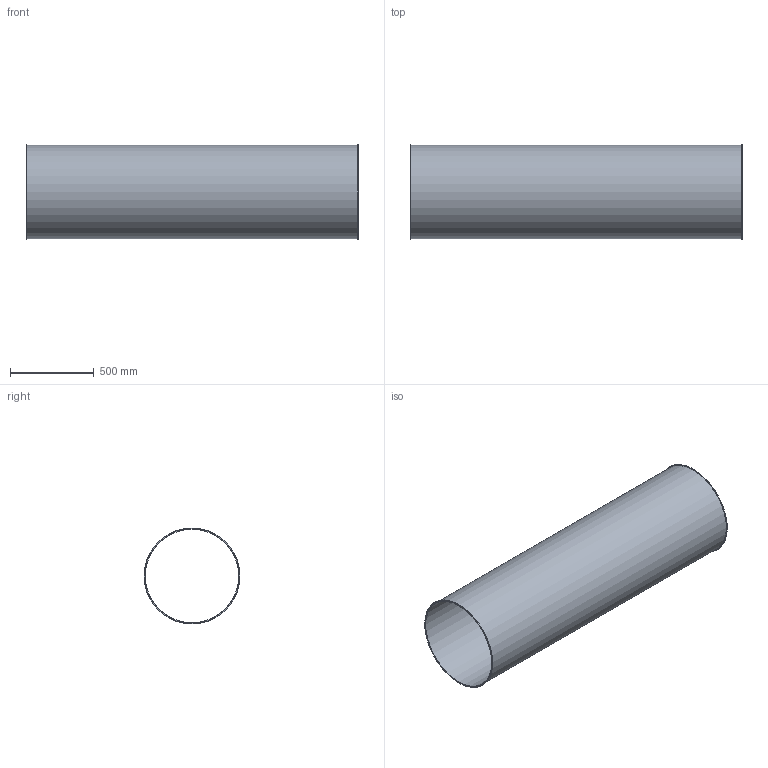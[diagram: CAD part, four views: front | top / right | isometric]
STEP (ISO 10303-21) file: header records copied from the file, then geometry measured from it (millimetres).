
FILE_DESCRIPTION((''),'2;1');
FILE_NAME('U:\Wolfgang\Marcel-3D\fertig\Kapitel 1\5621001.stp','2010-05-31T12:36:18',('TK2'),(''),'Autodesk Inventor 2010','Autodesk Inventor 2010','');
FILE_SCHEMA(('AUTOMOTIVE_DESIGN { 1 0 10303 214 1 1 1 1 }'));
Length unit declared in the file: millimetre
Products named in the file (1): 5621001
Bounding box: 1986 x 574 x 574 mm (x, y, z)
Volume: 7030733.6 mm3; surface area: 7037921.5 mm2
Topology: 1 solids, 1 shells, 8 faces, 12 edges, 8 vertices
Faces by surface type: cylinder 4, plane 4
Full cylindrical faces by diameter (mm): 558 x1, 562 x1, 574 x2
Entity records: 194 total; most frequent: DIRECTION 34, CARTESIAN_POINT 25, AXIS2_PLACEMENT_3D 17, ORIENTED_EDGE 16, EDGE_LOOP 16, VERTEX_POINT 8, CIRCLE 8, EDGE_CURVE 8
